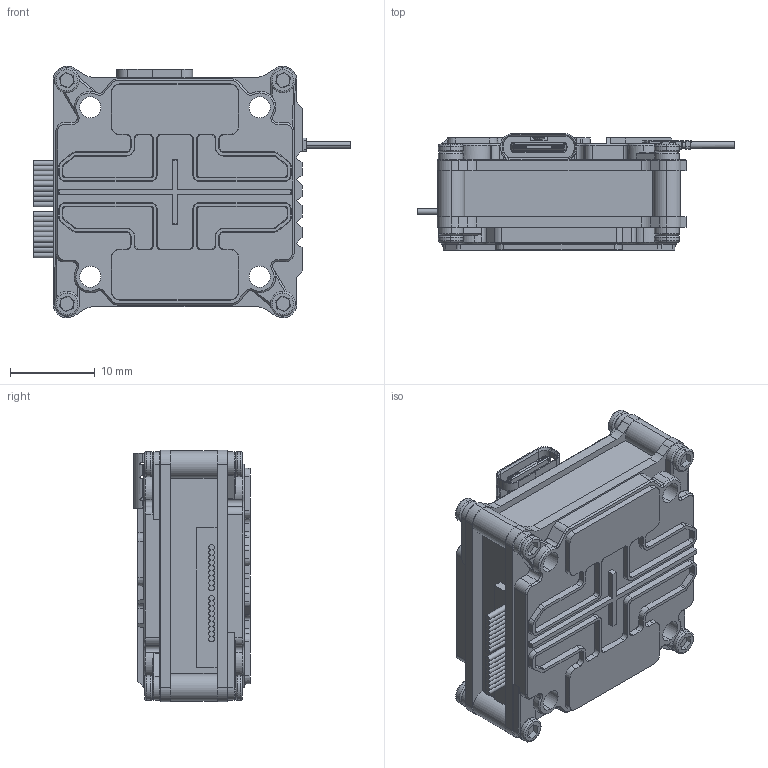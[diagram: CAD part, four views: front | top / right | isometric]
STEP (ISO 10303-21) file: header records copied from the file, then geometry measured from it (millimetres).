
FILE_DESCRIPTION (( 'STEP AP203' ), '1' );
FILE_NAME ('caddx_vista.STEP', '2020-02-24T13:00:37', ( '' ), ( '' ), 'SwSTEP 2.0', 'SolidWorks 2016', '' );
FILE_SCHEMA (( 'CONFIG_CONTROL_DESIGN' ));
Products named in the file (1): caddx_vista
Bounding box: 37.45 x 13.72 x 29.7 mm (x, y, z)
Volume: 9260 mm3; surface area: 11691.9 mm2
Topology: 4 solids, 6 shells, 1670 faces, 4515 edges, 2940 vertices
Faces by surface type: plane 819, cylinder 494, cone 166, bspline 153, torus 38
Entity records: 57342 total; most frequent: CARTESIAN_POINT 15615, ORIENTED_EDGE 9026, DIRECTION 8211, EDGE_CURVE 4513, VERTEX_POINT 2940, AXIS2_PLACEMENT_3D 2741, VECTOR 2729, LINE 2729
